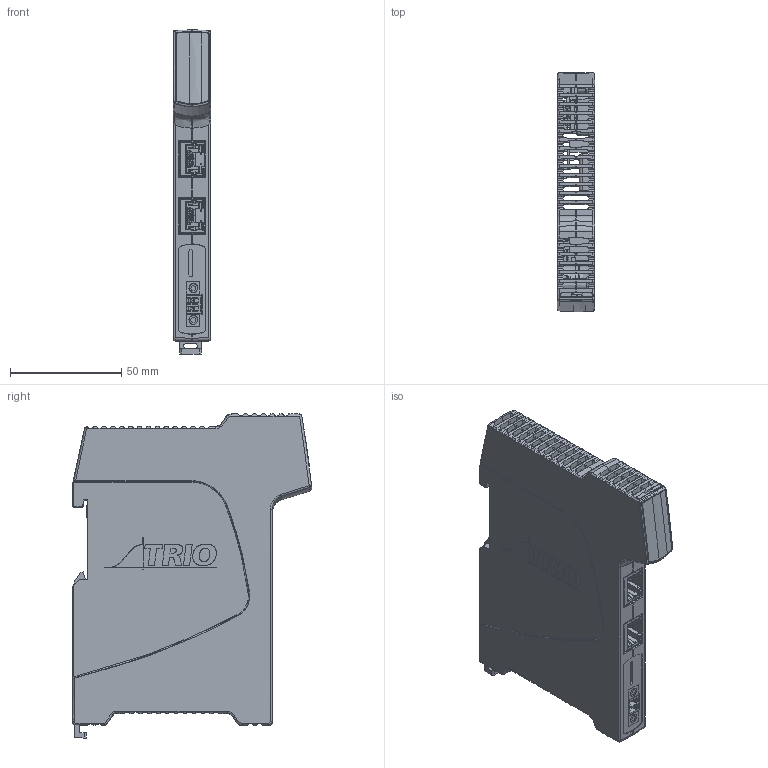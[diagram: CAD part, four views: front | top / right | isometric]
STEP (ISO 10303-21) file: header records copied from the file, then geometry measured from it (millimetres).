
FILE_DESCRIPTION(/* description */ (''),/* implementation_level */ '2;1');
FILE_NAME(/* name */ 'FLEX-6~1',/* time_stamp */ '2018-04-26T11:41:26+01:00',/* author */ (''),/* organization */ (''),/* preprocessor_version */ 'ST-DEVELOPER v15',/* originating_system */ '',/* authorisation */ '');
FILE_SCHEMA (('AUTOMOTIVE_DESIGN'));
Products named in the file (1): Document
Bounding box: 16.74 x 107.66 x 145.69 mm (x, y, z)
Volume: 9382.6 mm3; surface area: 86193.3 mm2
Topology: 33 solids, 50 shells, 6544 faces, 18855 edges, 12000 vertices
Faces by surface type: plane 4807, bspline 1737
Entity records: 234798 total; most frequent: CARTESIAN_POINT 115360, ORIENTED_EDGE 36746, EDGE_CURVE 18842, B_SPLINE_CURVE_WITH_KNOTS 16248, VERTEX_POINT 12004, EDGE_LOOP 6944, ADVANCED_FACE 6544, FACE_OUTER_BOUND 6544
